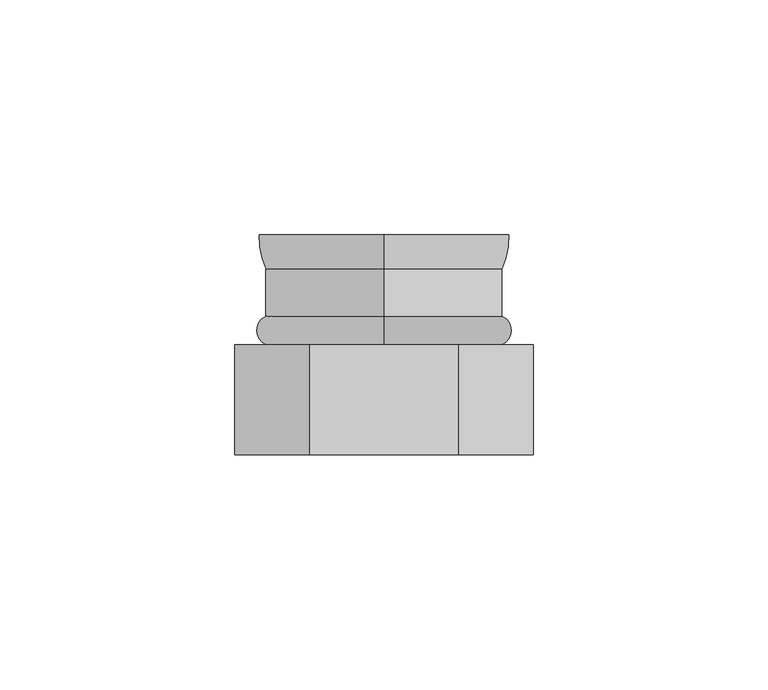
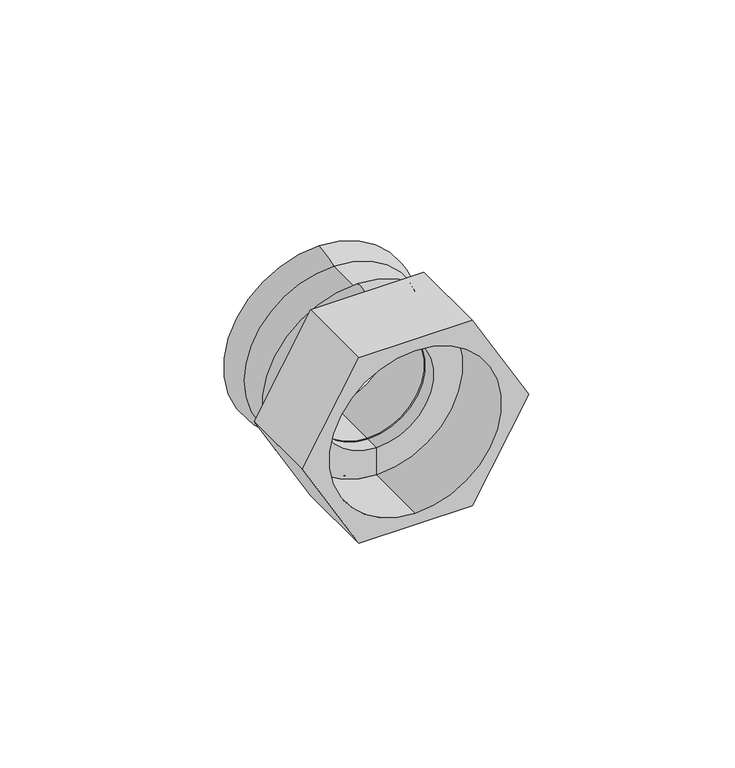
"""IFC4 building model written with IfcOpenShell, lengths in millimetres: pipe fitting geometry, BWT_Raccord Aval : BWT_Raccord Aval."""

from ifc_helpers import new_model, si_unit, point, frame, origin, place, context, project, spatial, polyline, circle_curve, ellipse_curve, trimmed, source, transform, mapped, element, save
from ifc_brep_helpers import plane_surface, cylinder_surface, revolved_surface, advanced_brep


def pipe_fitting_73059a0c(model_context):
    return source(origin(), model_context, "Body", "AdvancedBrep", [
        advanced_brep(
        [(0.0, 39.498215, -25.1751434), (0.0, 39.498215, 25.1751434), (0.0, 29.498215, 25.1751434), (0.0, 29.498215, -25.1751434), (0.0, 46.7939176, -26.7356506), (0.0, 46.7939176, 26.7356506), (0.0, 39.6718759, -24.3627676), (0.0, 39.6718759, 24.3627676), (0.0, 46.7939176, 25.7671136), (0.0, 46.7939176, -25.7671136), (0.0, 39.6718759, -16.0916757), (0.0, 39.6718759, 16.0916757), (0.0, 23.3958279, -24.9934981), (0.0, 23.3958279, 24.9934981), (0.0, 23.3958279, 16.0916757), (0.0, 23.3958279, -16.0916757)],
        [
            (0, 1, circle_curve(frame((0.0, 39.498215, 0.0), z_axis=(0.0, -1.0, 0.0), x_axis=(0.0, 0.0, 1.0)), 25.1751434)),
            (1, 2),
            (2, 3, circle_curve(frame((0.0, 29.498215, 0.0), z_axis=(0.0, 1.0, 0.0), x_axis=(0.0, 0.0, 1.0)), 25.1751434)),
            (3, 0),
            (1, 0, circle_curve(frame((0.0, 39.498215, 0.0), z_axis=(0.0, -1.0, 0.0), x_axis=(0.0, 0.0, 1.0)), 25.1751434)),
            (3, 2, circle_curve(frame((0.0, 29.498215, 0.0), z_axis=(0.0, 1.0, 0.0), x_axis=(0.0, 0.0, 1.0)), 25.1751434)),
            (0, 4, circle_curve(frame((0.0, 46.3570069, -10.9435686), z_axis=(1.0, 0.0, 0.0), x_axis=(0.0, -1.0, 0.0)), 15.7981248)),
            (4, 5, circle_curve(frame((0.0, 46.7939176, 0.0), z_axis=(0.0, -1.0, 0.0), x_axis=(0.0, 0.0, 1.0)), 26.7356506)),
            (5, 1, circle_curve(frame((0.0, 46.3570069, 10.9435686), z_axis=(1.0, 0.0, 0.0), x_axis=(0.0, -1.0, 0.0)), 15.7981248)),
            (5, 4, circle_curve(frame((0.0, 46.7939176, 0.0), z_axis=(0.0, -1.0, 0.0), x_axis=(0.0, 0.0, 1.0)), 26.7356506)),
            (6, 7, circle_curve(frame((0.0, 39.6718759, 0.0), z_axis=(0.0, -1.0, 0.0), x_axis=(0.0, 0.0, 1.0)), 24.3627676)),
            (7, 8, circle_curve(frame((0.0, 46.1278476, 10.3834015), z_axis=(-1.0, 0.0, 0.0), x_axis=(0.0, -1.0, 0.0)), 15.3981248)),
            (8, 9, circle_curve(frame((0.0, 46.7939176, 0.0), z_axis=(0.0, 1.0, 0.0), x_axis=(0.0, 0.0, 1.0)), 25.7671136)),
            (9, 6, circle_curve(frame((0.0, 46.1278476, -10.3834015), z_axis=(-1.0, 0.0, 0.0), x_axis=(0.0, -1.0, 0.0)), 15.3981248)),
            (7, 6, circle_curve(frame((0.0, 39.6718759, 0.0), z_axis=(0.0, -1.0, 0.0), x_axis=(0.0, 0.0, 1.0)), 24.3627676)),
            (9, 8, circle_curve(frame((0.0, 46.7939176, 0.0), z_axis=(0.0, 1.0, 0.0), x_axis=(0.0, 0.0, 1.0)), 25.7671136)),
            (6, 10),
            (10, 11, circle_curve(frame((0.0, 39.6718759, 0.0), z_axis=(0.0, -1.0, 0.0), x_axis=(0.0, 0.0, 1.0)), 16.0916757)),
            (11, 7),
            (11, 10, circle_curve(frame((0.0, 39.6718759, 0.0), z_axis=(0.0, -1.0, 0.0), x_axis=(0.0, 0.0, 1.0)), 16.0916757)),
            (12, 13, circle_curve(frame((0.0, 23.3958279, 0.0), z_axis=(0.0, -1.0, 0.0), x_axis=(0.0, 0.0, 1.0)), 24.9934981)),
            (13, 14),
            (14, 15, circle_curve(frame((0.0, 23.3958279, 0.0), z_axis=(0.0, 1.0, 0.0), x_axis=(0.0, 0.0, 1.0)), 16.0916757)),
            (15, 12),
            (13, 12, circle_curve(frame((0.0, 23.3958279, 0.0), z_axis=(0.0, -1.0, 0.0), x_axis=(0.0, 0.0, 1.0)), 24.9934981)),
            (15, 14, circle_curve(frame((0.0, 23.3958279, 0.0), z_axis=(0.0, 1.0, 0.0), x_axis=(0.0, 0.0, 1.0)), 16.0916757)),
            (2, 13, circle_curve(frame((0.0, 26.4795374, 23.9919456), z_axis=(1.0, 0.0, 0.0), x_axis=(0.0, -1.0, 0.0)), 3.2422788)),
            (12, 3, circle_curve(frame((0.0, 26.4795374, -23.9919456), z_axis=(1.0, 0.0, 0.0), x_axis=(0.0, -1.0, 0.0)), 3.2422788)),
            (14, 11),
            (10, 15),
            (4, 9),
            (8, 5),
        ],
        [
            cylinder_surface(frame((0.0, -30.0, 0.0), z_axis=(0.0, 1.0, 0.0), x_axis=(0.0, 0.0, 1.0)), 25.1751434),
            revolved_surface(trimmed(ellipse_curve(frame((0.0, 46.3570069, 10.9435686), z_axis=(-1.0, 0.0, 0.0), x_axis=(0.0, -1.0, 0.0)), 15.7981248, 15.7981248), [point((0.0, 39.498215, 25.1751434))], [point((0.0, 46.7939176, 26.7356506))], True, "CARTESIAN"), (0.0, -30.0, 0.0), (0.0, 1.0, 0.0)),
            revolved_surface(trimmed(ellipse_curve(frame((0.0, 46.1278476, 10.3834015), z_axis=(1.0, 0.0, 0.0), x_axis=(0.0, -1.0, 0.0)), 15.3981248, 15.3981248), [point((0.0, 46.7939176, 25.7671136))], [point((0.0, 39.6718759, 24.3627676))], True, "CARTESIAN"), (0.0, -30.0, 0.0), (0.0, 1.0, 0.0)),
            plane_surface(frame((0.0, 39.6718759, 0.0), z_axis=(0.0, 1.0, 0.0), x_axis=(0.0, 0.0, 1.0))),
            plane_surface(frame((0.0, 23.3958279, 0.0), z_axis=(0.0, -1.0, 0.0), x_axis=(0.0, 0.0, 1.0))),
            revolved_surface(trimmed(ellipse_curve(frame((0.0, 26.4795374, 23.9919456), z_axis=(-1.0, 0.0, 0.0), x_axis=(0.0, -1.0, 0.0)), 3.2422788, 3.2422788), [point((0.0, 23.3958279, 24.9934981))], [point((0.0, 29.498215, 25.1751434))], True, "CARTESIAN"), (0.0, -30.0, 0.0), (0.0, 1.0, 0.0)),
            revolved_surface(polyline([(0.0, 39.6718759, 16.0916757), (0.0, 23.3958279, 16.0916757)]), (0.0, 6.7414234, 0.0), (0.0, 1.0, 0.0)),
            plane_surface(frame((0.0, 46.7939176, 0.0), z_axis=(0.0, 1.0, 0.0), x_axis=(0.0, 0.0, 1.0))),
        ],
        [
            (0, [[1, 2, 3, 4]]),
            (0, [[-2, 5, -4, 6]]),
            (1, [[-1, 7, 8, 9]]),
            (1, [[-5, -9, 10, -7]]),
            (2, [[11, 12, 13, 14]]),
            (2, [[-12, 15, -14, 16]]),
            (3, [[-11, 17, 18, 19]]),
            (3, [[-15, -19, 20, -17]]),
            (4, [[21, 22, 23, 24]]),
            (4, [[25, -24, 26, -22]]),
            (5, [[-3, 27, -21, 28]]),
            (5, [[-6, -28, -25, -27]]),
            (6, [[29, -18, 30, -23]]),
            (6, [[-29, -26, -30, -20]]),
            (7, [[-8, 31, -13, 32]]),
            (7, [[-10, -32, -16, -31]]),
        ],
    ),
        advanced_brep(
        [(15.8771324, 23.3958279, 27.5), (31.7542648, 23.3958279, 0.0), (15.8771324, 23.3958279, -27.5), (-15.8771324, 23.3958279, -27.5), (-31.7542648, 23.3958279, 0.0), (-15.8771324, 23.3958279, 27.5), (0.0, 23.3958279, -16.1061091), (0.0, 23.3958279, 16.1061091), (15.8771324, 0.0, 27.5), (-15.8771324, 0.0, 27.5), (-31.7542648, 0.0, 0.0), (-15.8771324, 0.0, -27.5), (15.8771324, 0.0, -27.5), (31.7542648, 0.0, 0.0), (0.0, 0.0, 24.1061091), (0.0, 0.0, -24.1061091), (0.0, 18.8507541, -16.1061091), (0.0, 18.8507541, -24.1061091), (0.0, 18.8507541, 24.1061091), (0.0, 18.8507541, 16.1061091)],
        [
            (0, 1),
            (1, 2),
            (2, 3),
            (3, 4),
            (4, 5),
            (5, 0),
            (6, 7, circle_curve(frame((0.0, 23.3958279, 0.0), z_axis=(0.0, -1.0, 0.0), x_axis=(0.0, 0.0, 1.0)), 16.1061091)),
            (7, 6, circle_curve(frame((0.0, 23.3958279, 0.0), z_axis=(0.0, -1.0, 0.0), x_axis=(0.0, 0.0, 1.0)), 16.1061091)),
            (8, 9),
            (9, 10),
            (10, 11),
            (11, 12),
            (12, 13),
            (13, 8),
            (14, 15, circle_curve(frame((0.0, 0.0, 0.0), z_axis=(0.0, 1.0, 0.0), x_axis=(0.0, 0.0, 1.0)), 24.1061091)),
            (15, 14, circle_curve(frame((0.0, 0.0, 0.0), z_axis=(0.0, 1.0, 0.0), x_axis=(0.0, 0.0, 1.0)), 24.1061091)),
            (0, 8),
            (13, 1),
            (12, 2),
            (11, 3),
            (10, 4),
            (9, 5),
            (16, 17),
            (17, 18, circle_curve(frame((0.0, 18.8507541, 0.0), z_axis=(0.0, -1.0, 0.0), x_axis=(0.0, 0.0, 1.0)), 24.1061091)),
            (18, 19),
            (19, 16, circle_curve(frame((0.0, 18.8507541, 0.0), z_axis=(0.0, 1.0, 0.0), x_axis=(0.0, 0.0, 1.0)), 16.1061091)),
            (16, 19, circle_curve(frame((0.0, 18.8507541, 0.0), z_axis=(0.0, 1.0, 0.0), x_axis=(0.0, 0.0, 1.0)), 16.1061091)),
            (18, 17, circle_curve(frame((0.0, 18.8507541, 0.0), z_axis=(0.0, -1.0, 0.0), x_axis=(0.0, 0.0, 1.0)), 24.1061091)),
            (17, 15),
            (14, 18),
            (19, 7),
            (6, 16),
        ],
        [
            plane_surface(frame((7.9385662, 23.3958279, 41.25), z_axis=(0.0, 1.0, 0.0), x_axis=(0.4999999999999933, 0.0, -0.8660254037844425))),
            plane_surface(frame((7.9385662, 0.0, 41.25), z_axis=(0.0, -1.0, 0.0), x_axis=(-0.4999999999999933, 0.0, 0.8660254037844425))),
            plane_surface(frame((15.8771324, 23.3958279, 27.5), z_axis=(0.8660254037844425, 0.0, 0.4999999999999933), x_axis=(0.0, -1.0, 0.0))),
            plane_surface(frame((31.7542648, 23.3958279, 0.0), z_axis=(0.8660254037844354, 0.0, -0.5000000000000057), x_axis=(0.0, -1.0, 0.0))),
            plane_surface(frame((15.8771324, 23.3958279, -27.5), z_axis=(0.0, 0.0, -1.0), x_axis=(0.0, -1.0, 0.0))),
            plane_surface(frame((-15.8771324, 23.3958279, -27.5), z_axis=(-0.8660254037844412, 0.0, -0.4999999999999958), x_axis=(0.0, -1.0, 0.0))),
            plane_surface(frame((-31.7542648, 23.3958279, 0.0), z_axis=(-0.8660254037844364, 0.0, 0.500000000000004), x_axis=(0.0, -1.0, 0.0))),
            plane_surface(frame((-15.8771324, 23.3958279, 27.5), z_axis=(0.0, 0.0, 1.0), x_axis=(0.0, -1.0, 0.0))),
            plane_surface(frame((0.0, 18.8507541, 0.0), z_axis=(0.0, -1.0, 0.0), x_axis=(0.0, 0.0, 1.0))),
            revolved_surface(polyline([(0.0, 18.850754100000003, 24.1061091), (0.0, 0.0, 24.1061091)]), (0.0, -30.0, 0.0), (0.0, 1.0, 0.0)),
            revolved_surface(polyline([(0.0, 23.3958279, 16.1061091), (0.0, 18.850754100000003, 16.1061091)]), (0.0, -30.0, 0.0), (0.0, 1.0, 0.0)),
        ],
        [
            (0, [[1, 2, 3, 4, 5, 6], [7, 8]]),
            (1, [[9, 10, 11, 12, 13, 14], [15, 16]]),
            (2, [[-1, 17, -14, 18]]),
            (3, [[-2, -18, -13, 19]]),
            (4, [[-3, -19, -12, 20]]),
            (5, [[-4, -20, -11, 21]]),
            (6, [[-5, -21, -10, 22]]),
            (7, [[-6, -22, -9, -17]]),
            (8, [[23, 24, 25, 26]]),
            (8, [[-23, 27, -25, 28]]),
            (9, [[-24, 29, -15, 30]]),
            (9, [[-28, -30, -16, -29]]),
            (10, [[-26, 31, -7, 32]]),
            (10, [[-27, -32, -8, -31]]),
        ],
    ),
    ])


if __name__ == "__main__":
    model = new_model("IFC4")
    model_context = context("Model", 3, world=origin())
    ifc_project = project(units=[si_unit("LENGTHUNIT", "METRE", prefix="MILLI")], contexts=[model_context])
    site = spatial("IfcSite", under=ifc_project)
    building = spatial("IfcBuilding", under=site)
    placement = place(None, origin())
    pipe_fitting_shape = pipe_fitting_73059a0c(model_context)
    element("IfcPipeFitting", 1, ObjectType="BWT_Raccord Aval : BWT_Raccord Aval", at=placement, inside=building, context=model_context, shape_type="MappedRepresentation", body=[
        mapped(pipe_fitting_shape, transform((0.0, 0.0, 0.0), x_axis=(1.0, 0.0, 0.0), y_axis=(0.0, 1.0, 0.0), z_axis=(0.0, 0.0, 1.0))),
    ])
    save(model, "model.ifc")
